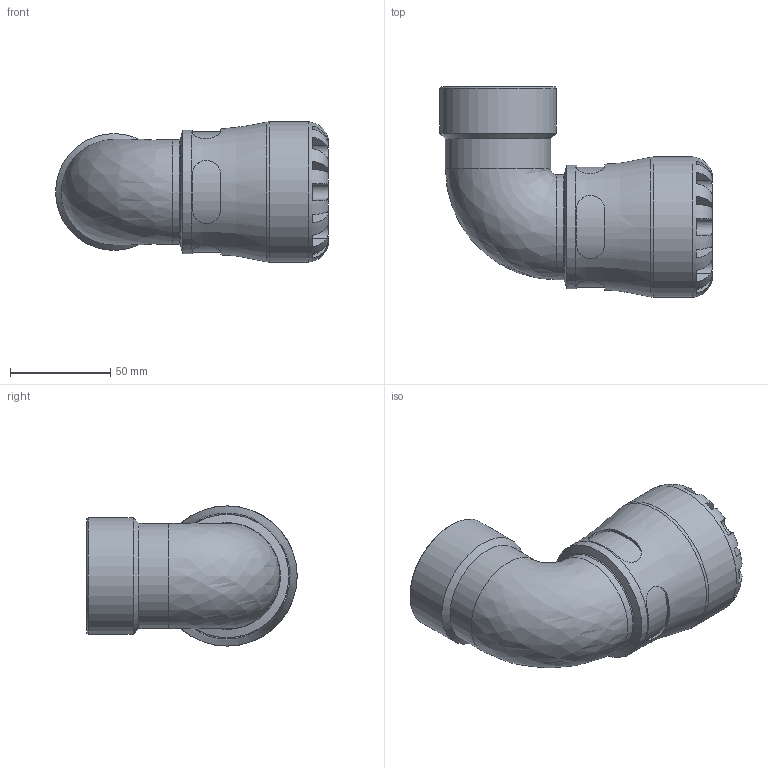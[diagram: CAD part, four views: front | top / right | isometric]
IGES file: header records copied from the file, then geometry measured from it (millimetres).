
Global section: file name: 107600040015_197600040015.ipt; native system: Autodesk Inventor 2015; preprocessor: unknown; author: KIM; date: 20170518.120400; units: millimetre
Bounding box: 136.15 x 105 x 70 mm (x, y, z)
Volume: 239183.7 mm3; surface area: 57824.8 mm2
Topology: 1 solids, 1 shells, 108 faces, 277 edges, 176 vertices
Faces by surface type: plane 60, revolution 28, cylinder 17, cone 3
Full cylindrical faces by diameter (mm): 52.469 x2, 58.298 x1, 61.6 x1, 70 x1
